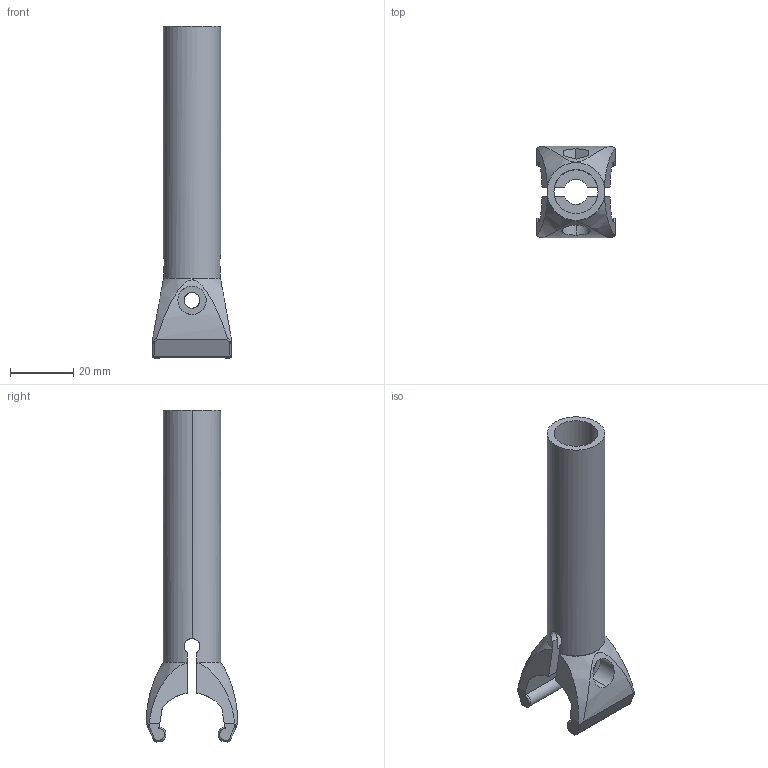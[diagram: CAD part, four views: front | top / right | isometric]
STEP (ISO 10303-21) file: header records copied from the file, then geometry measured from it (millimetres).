
FILE_DESCRIPTION (( 'STEP AP214' ), '1' );
FILE_NAME ('FGRK 18X80A.step', '2017-04-05T07:43:28', ( '' ), ( '' ), 'SwSTEP 2.0', 'SolidWorks 2015', '' );
FILE_SCHEMA (( 'AUTOMOTIVE_DESIGN' ));
Length unit declared in the file: millimetre
Products named in the file (1): FGRK 18X80A
Bounding box: 25 x 29 x 105.3 mm (x, y, z)
Volume: 14733.3 mm3; surface area: 11980.8 mm2
Topology: 1 solids, 1 shells, 86 faces, 232 edges, 146 vertices
Faces by surface type: plane 31, cylinder 30, bspline 16, torus 5, sphere 4
Entity records: 4203 total; most frequent: CARTESIAN_POINT 2270, ORIENTED_EDGE 460, DIRECTION 298, EDGE_CURVE 230, VERTEX_POINT 146, AXIS2_PLACEMENT_3D 104, B_SPLINE_CURVE_WITH_KNOTS 100, EDGE_LOOP 94
